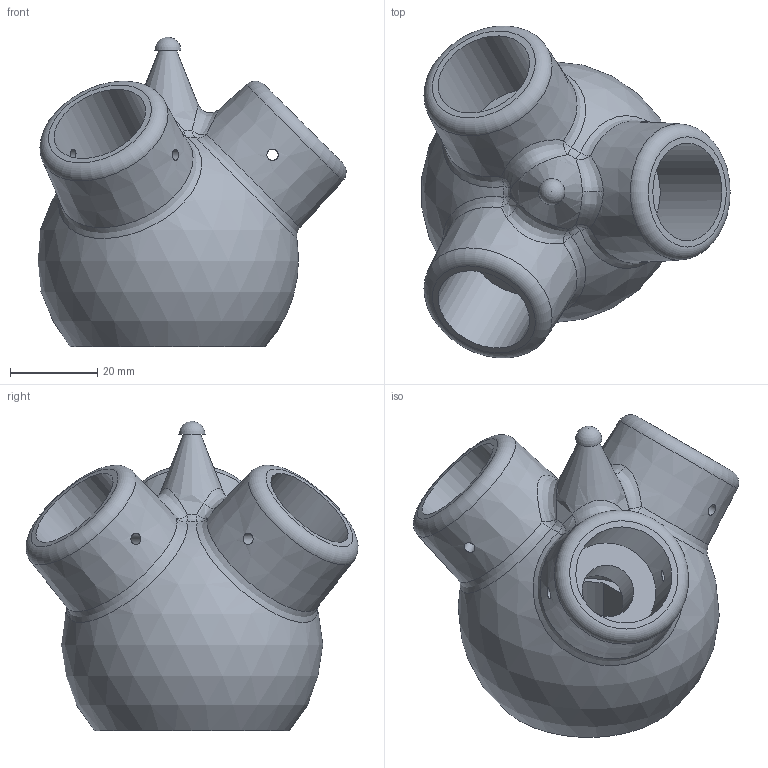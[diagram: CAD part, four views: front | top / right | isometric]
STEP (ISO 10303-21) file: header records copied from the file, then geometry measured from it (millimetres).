
FILE_DESCRIPTION(('Open CASCADE Model'),'2;1');
FILE_NAME('Open CASCADE Shape Model','2026-10-15T22:00:36',('Author'),( 'Open CASCADE'),'Open CASCADE STEP processor 7.9','Open CASCADE 7.9' ,'Unknown');
FILE_SCHEMA(('AUTOMOTIVE_DESIGN { 1 0 10303 214 1 1 1 1 }'));
Length unit declared in the file: millimetre
Products named in the file (1): Open CASCADE STEP translator 7.9 6
Bounding box: 70.7 x 76.15 x 71 mm (x, y, z)
Volume: 105699.3 mm3; surface area: 23427.7 mm2
Topology: 1 solids, 1 shells, 52 faces, 120 edges, 67 vertices
Faces by surface type: bspline 19, cylinder 13, plane 10, cone 4, sphere 3, torus 3
Full cylindrical faces by diameter (mm): 2.6 x6, 12 x3, 22.4 x3
Entity records: 9670 total; most frequent: CARTESIAN_POINT 7668, DIRECTION 268, ORIENTED_EDGE 224, PCURVE 224, DEFINITIONAL_REPRESENTATION 224, B_SPLINE_CURVE_WITH_KNOTS 146, LINE 120, VECTOR 120
